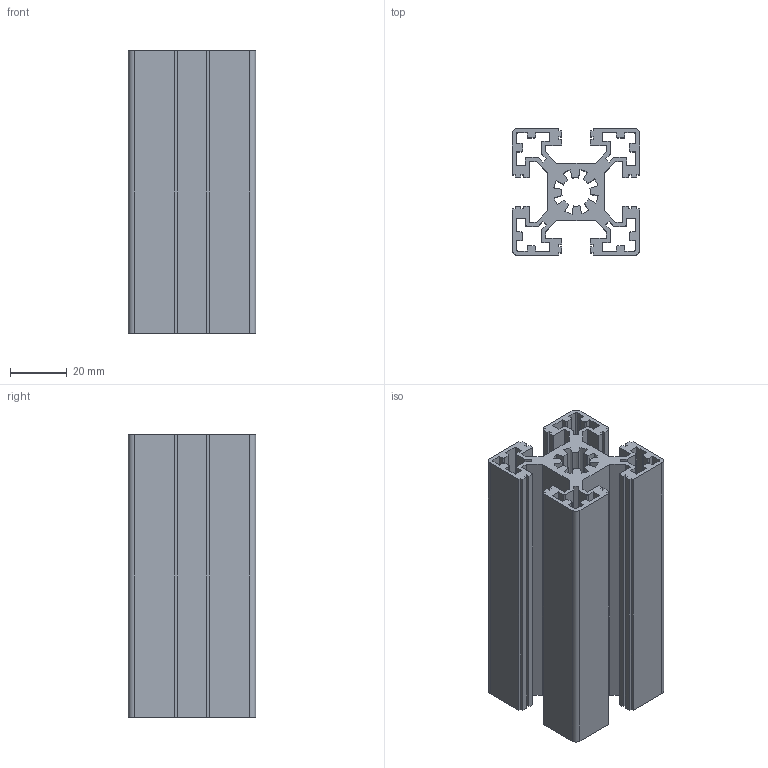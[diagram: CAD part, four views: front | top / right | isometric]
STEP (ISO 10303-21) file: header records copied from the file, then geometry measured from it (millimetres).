
FILE_DESCRIPTION (( 'STEP AP203' ), '1' );
FILE_NAME ('LIMA-4545-10.STEP', '2018-03-15T12:34:13', ( '' ), ( '' ), 'SwSTEP 2.0', 'SolidWorks 2013', '' );
FILE_SCHEMA (( 'CONFIG_CONTROL_DESIGN' ));
Length unit declared in the file: millimetre
Products named in the file (1): LIMA-4545-10
Bounding box: 45 x 45 x 100 mm (x, y, z)
Volume: 78750.1 mm3; surface area: 69706 mm2
Topology: 1 solids, 1 shells, 235 faces, 699 edges, 466 vertices
Faces by surface type: plane 186, cylinder 49
Entity records: 7908 total; most frequent: CARTESIAN_POINT 1401, ORIENTED_EDGE 1398, DIRECTION 1269, EDGE_CURVE 699, LINE 601, VECTOR 601, VERTEX_POINT 466, AXIS2_PLACEMENT_3D 334
